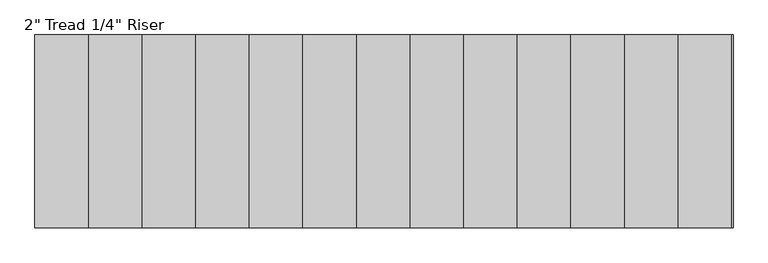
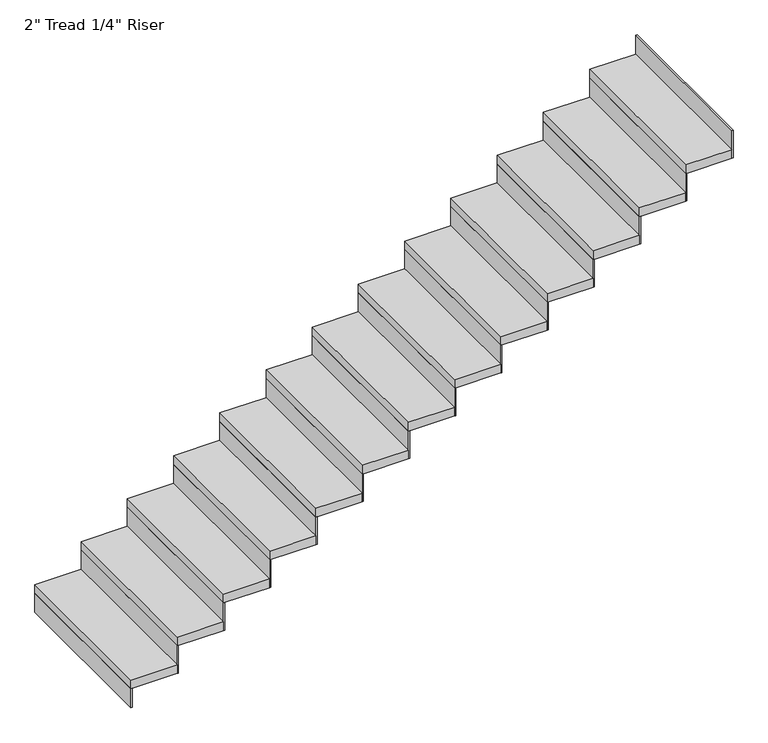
"""IFC4 building model written with IfcOpenShell, lengths in millimetres: stair flight geometry."""

from ifc_helpers import new_model, si_unit, frame, origin, origin_with_axes, place, context, project, spatial, polyline, outline, extrude, source, transform, mapped, element, save


def stair_flight_60fe939c(model_context):
    return source(origin(), model_context, "Body", "SweptSolid", [
        extrude(outline(polyline([(109914.5788146, -35593.481782), (109908.2288146, -35593.481782), (109908.2288146, -34679.081782), (109914.5788146, -34679.081782), (109914.5788146, -35593.481782)])), origin_with_axes(), (0.0, 0.0, 1.0), 109.6210526),
        extrude(outline(polyline([(110162.2288146, -34679.081782), (110162.2288146, -35593.481782), (109908.2288146, -35593.481782), (109908.2288146, -34679.081782), (110162.2288146, -34679.081782)])), frame((0.0, 0.0, 109.6210526), z_axis=(0.0, 0.0, 1.0), x_axis=(1.0, 0.0, 0.0)), (0.0, 0.0, 1.0), 50.8),
        extrude(outline(polyline([(110168.5788146, -35593.481782), (110162.2288146, -35593.481782), (110162.2288146, -34679.081782), (110168.5788146, -34679.081782), (110168.5788146, -35593.481782)])), frame((0.0, 0.0, 109.6210526), z_axis=(0.0, 0.0, 1.0), x_axis=(1.0, 0.0, 0.0)), (0.0, 0.0, 1.0), 160.4210526),
        extrude(outline(polyline([(110416.2288146, -34679.081782), (110416.2288146, -35593.481782), (110162.2288146, -35593.481782), (110162.2288146, -34679.081782), (110416.2288146, -34679.081782)])), frame((0.0, 0.0, 270.0421053), z_axis=(0.0, 0.0, 1.0), x_axis=(1.0, 0.0, 0.0)), (0.0, 0.0, 1.0), 50.8),
        extrude(outline(polyline([(110422.5788146, -35593.481782), (110416.2288146, -35593.481782), (110416.2288146, -34679.081782), (110422.5788146, -34679.081782), (110422.5788146, -35593.481782)])), frame((0.0, 0.0, 270.0421053), z_axis=(0.0, 0.0, 1.0), x_axis=(1.0, 0.0, 0.0)), (0.0, 0.0, 1.0), 160.4210526),
        extrude(outline(polyline([(110670.2288146, -34679.081782), (110670.2288146, -35593.481782), (110416.2288146, -35593.481782), (110416.2288146, -34679.081782), (110670.2288146, -34679.081782)])), frame((0.0, 0.0, 430.4631579), z_axis=(0.0, 0.0, 1.0), x_axis=(1.0, 0.0, 0.0)), (0.0, 0.0, 1.0), 50.8),
        extrude(outline(polyline([(110676.5788146, -35593.481782), (110670.2288146, -35593.481782), (110670.2288146, -34679.081782), (110676.5788146, -34679.081782), (110676.5788146, -35593.481782)])), frame((0.0, 0.0, 430.4631579), z_axis=(0.0, 0.0, 1.0), x_axis=(1.0, 0.0, 0.0)), (0.0, 0.0, 1.0), 160.4210526),
        extrude(outline(polyline([(110924.2288146, -34679.081782), (110924.2288146, -35593.481782), (110670.2288146, -35593.481782), (110670.2288146, -34679.081782), (110924.2288146, -34679.081782)])), frame((0.0, 0.0, 590.8842105), z_axis=(0.0, 0.0, 1.0), x_axis=(1.0, 0.0, 0.0)), (0.0, 0.0, 1.0), 50.8),
        extrude(outline(polyline([(110930.5788146, -35593.481782), (110924.2288146, -35593.481782), (110924.2288146, -34679.081782), (110930.5788146, -34679.081782), (110930.5788146, -35593.481782)])), frame((0.0, 0.0, 590.8842105), z_axis=(0.0, 0.0, 1.0), x_axis=(1.0, 0.0, 0.0)), (0.0, 0.0, 1.0), 160.4210526),
        extrude(outline(polyline([(111178.2288146, -34679.081782), (111178.2288146, -35593.481782), (110924.2288146, -35593.481782), (110924.2288146, -34679.081782), (111178.2288146, -34679.081782)])), frame((0.0, 0.0, 751.3052632), z_axis=(0.0, 0.0, 1.0), x_axis=(1.0, 0.0, 0.0)), (0.0, 0.0, 1.0), 50.8),
        extrude(outline(polyline([(111184.5788146, -35593.481782), (111178.2288146, -35593.481782), (111178.2288146, -34679.081782), (111184.5788146, -34679.081782), (111184.5788146, -35593.481782)])), frame((0.0, 0.0, 751.3052632), z_axis=(0.0, 0.0, 1.0), x_axis=(1.0, 0.0, 0.0)), (0.0, 0.0, 1.0), 160.4210526),
        extrude(outline(polyline([(111432.2288146, -34679.081782), (111432.2288146, -35593.481782), (111178.2288146, -35593.481782), (111178.2288146, -34679.081782), (111432.2288146, -34679.081782)])), frame((0.0, 0.0, 911.7263158), z_axis=(0.0, 0.0, 1.0), x_axis=(1.0, 0.0, 0.0)), (0.0, 0.0, 1.0), 50.8),
        extrude(outline(polyline([(111438.5788146, -35593.481782), (111432.2288146, -35593.481782), (111432.2288146, -34679.081782), (111438.5788146, -34679.081782), (111438.5788146, -35593.481782)])), frame((0.0, 0.0, 911.7263158), z_axis=(0.0, 0.0, 1.0), x_axis=(1.0, 0.0, 0.0)), (0.0, 0.0, 1.0), 160.4210526),
        extrude(outline(polyline([(111686.2288146, -34679.081782), (111686.2288146, -35593.481782), (111432.2288146, -35593.481782), (111432.2288146, -34679.081782), (111686.2288146, -34679.081782)])), frame((0.0, 0.0, 1072.1473684), z_axis=(0.0, 0.0, 1.0), x_axis=(1.0, 0.0, 0.0)), (0.0, 0.0, 1.0), 50.8),
        extrude(outline(polyline([(111692.5788146, -35593.481782), (111686.2288146, -35593.481782), (111686.2288146, -34679.081782), (111692.5788146, -34679.081782), (111692.5788146, -35593.481782)])), frame((0.0, 0.0, 1072.1473684), z_axis=(0.0, 0.0, 1.0), x_axis=(1.0, 0.0, 0.0)), (0.0, 0.0, 1.0), 160.4210526),
        extrude(outline(polyline([(111940.2288146, -34679.081782), (111940.2288146, -35593.481782), (111686.2288146, -35593.481782), (111686.2288146, -34679.081782), (111940.2288146, -34679.081782)])), frame((0.0, 0.0, 1232.5684211), z_axis=(0.0, 0.0, 1.0), x_axis=(1.0, 0.0, 0.0)), (0.0, 0.0, 1.0), 50.8),
        extrude(outline(polyline([(111946.5788146, -35593.481782), (111940.2288146, -35593.481782), (111940.2288146, -34679.081782), (111946.5788146, -34679.081782), (111946.5788146, -35593.481782)])), frame((0.0, 0.0, 1232.5684211), z_axis=(0.0, 0.0, 1.0), x_axis=(1.0, 0.0, 0.0)), (0.0, 0.0, 1.0), 160.4210526),
        extrude(outline(polyline([(112194.2288146, -34679.081782), (112194.2288146, -35593.481782), (111940.2288146, -35593.481782), (111940.2288146, -34679.081782), (112194.2288146, -34679.081782)])), frame((0.0, 0.0, 1392.9894737), z_axis=(0.0, 0.0, 1.0), x_axis=(1.0, 0.0, 0.0)), (0.0, 0.0, 1.0), 50.8),
        extrude(outline(polyline([(112200.5788146, -35593.481782), (112194.2288146, -35593.481782), (112194.2288146, -34679.081782), (112200.5788146, -34679.081782), (112200.5788146, -35593.481782)])), frame((0.0, 0.0, 1392.9894737), z_axis=(0.0, 0.0, 1.0), x_axis=(1.0, 0.0, 0.0)), (0.0, 0.0, 1.0), 160.4210526),
        extrude(outline(polyline([(112448.2288146, -34679.081782), (112448.2288146, -35593.481782), (112194.2288146, -35593.481782), (112194.2288146, -34679.081782), (112448.2288146, -34679.081782)])), frame((0.0, 0.0, 1553.4105263), z_axis=(0.0, 0.0, 1.0), x_axis=(1.0, 0.0, 0.0)), (0.0, 0.0, 1.0), 50.8),
        extrude(outline(polyline([(112454.5788146, -35593.481782), (112448.2288146, -35593.481782), (112448.2288146, -34679.081782), (112454.5788146, -34679.081782), (112454.5788146, -35593.481782)])), frame((0.0, 0.0, 1553.4105263), z_axis=(0.0, 0.0, 1.0), x_axis=(1.0, 0.0, 0.0)), (0.0, 0.0, 1.0), 160.4210526),
        extrude(outline(polyline([(112702.2288146, -34679.081782), (112702.2288146, -35593.481782), (112448.2288146, -35593.481782), (112448.2288146, -34679.081782), (112702.2288146, -34679.081782)])), frame((0.0, 0.0, 1713.8315789), z_axis=(0.0, 0.0, 1.0), x_axis=(1.0, 0.0, 0.0)), (0.0, 0.0, 1.0), 50.8),
        extrude(outline(polyline([(112708.5788146, -35593.481782), (112702.2288146, -35593.481782), (112702.2288146, -34679.081782), (112708.5788146, -34679.081782), (112708.5788146, -35593.481782)])), frame((0.0, 0.0, 1713.8315789), z_axis=(0.0, 0.0, 1.0), x_axis=(1.0, 0.0, 0.0)), (0.0, 0.0, 1.0), 160.4210526),
        extrude(outline(polyline([(112956.2288146, -34679.081782), (112956.2288146, -35593.481782), (112702.2288146, -35593.481782), (112702.2288146, -34679.081782), (112956.2288146, -34679.081782)])), frame((0.0, 0.0, 1874.2526316), z_axis=(0.0, 0.0, 1.0), x_axis=(1.0, 0.0, 0.0)), (0.0, 0.0, 1.0), 50.8),
        extrude(outline(polyline([(112962.5788146, -35593.481782), (112956.2288146, -35593.481782), (112956.2288146, -34679.081782), (112962.5788146, -34679.081782), (112962.5788146, -35593.481782)])), frame((0.0, 0.0, 1874.2526316), z_axis=(0.0, 0.0, 1.0), x_axis=(1.0, 0.0, 0.0)), (0.0, 0.0, 1.0), 160.4210526),
        extrude(outline(polyline([(113216.5788146, -35593.481782), (113210.2288146, -35593.481782), (113210.2288146, -34679.081782), (113216.5788146, -34679.081782), (113216.5788146, -35593.481782)])), frame((0.0, 0.0, 2034.6736842), z_axis=(0.0, 0.0, 1.0), x_axis=(1.0, 0.0, 0.0)), (0.0, 0.0, 1.0), 160.4210526),
        extrude(outline(polyline([(113210.2288146, -34679.081782), (113210.2288146, -35593.481782), (112956.2288146, -35593.481782), (112956.2288146, -34679.081782), (113210.2288146, -34679.081782)])), frame((0.0, 0.0, 2034.6736842), z_axis=(0.0, 0.0, 1.0), x_axis=(1.0, 0.0, 0.0)), (0.0, 0.0, 1.0), 50.8),
    ])


if __name__ == "__main__":
    model = new_model("IFC4")
    model_context = context("Model", 3, world=origin())
    ifc_project = project(units=[si_unit("LENGTHUNIT", "METRE", prefix="MILLI")], contexts=[model_context])
    site = spatial("IfcSite", under=ifc_project)
    building = spatial("IfcBuilding", under=site)
    placement = place(None, origin())
    stair_flight_shape = stair_flight_60fe939c(model_context)
    element("IfcStairFlight", 1, ObjectType="2\" Tread 1/4\" Riser", at=placement, inside=building, context=model_context, shape_type="MappedRepresentation", body=[
        mapped(stair_flight_shape, transform((0.0, 0.0, 0.0), x_axis=(1.0, 0.0, 0.0), y_axis=(0.0, 1.0, 0.0), z_axis=(0.0, 0.0, 1.0))),
    ])
    save(model, "model.ifc")
